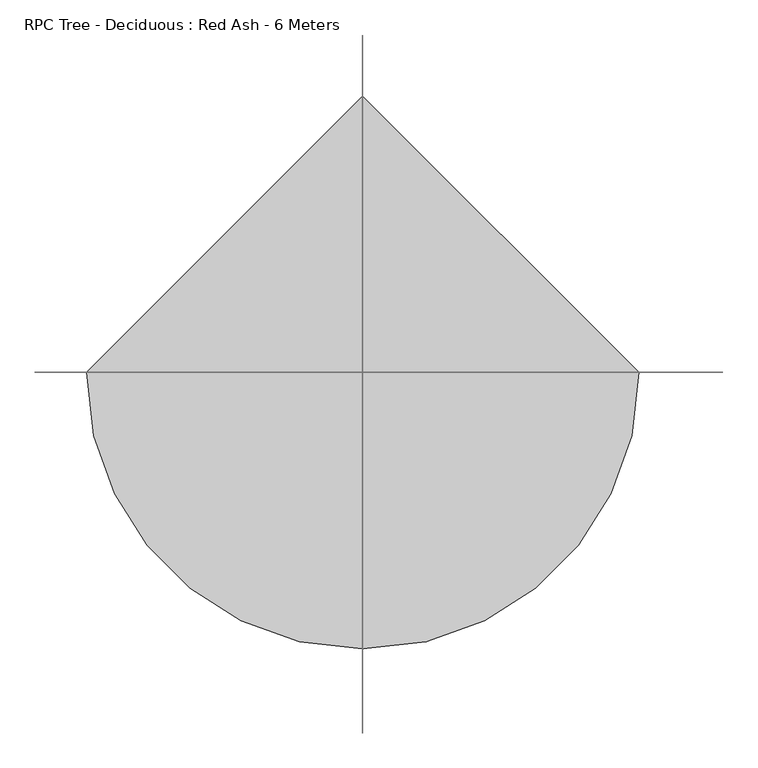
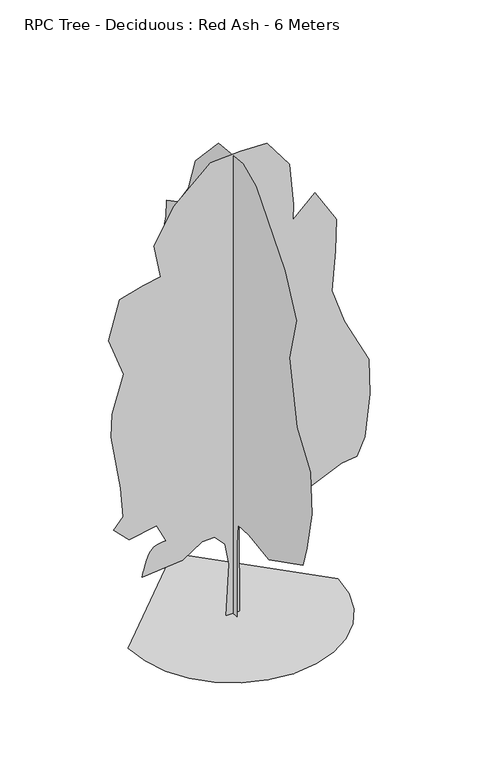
"""IFC4 building model written with IfcOpenShell, lengths in millimetres: geographic element geometry, RPC Tree - Deciduous : Red Ash - 6 Meters."""

from ifc_helpers import new_model, si_unit, origin, place, context, project, spatial, triangles, source, transform, mapped, element, save


def rpc_tree_deciduous_red_ash_6_meters_898a03db(model_context):
    return source(origin(), model_context, "Body", "Tessellation", [
        triangles([(-1295.2382366, 0.0, 4.87e-05), (-1260.9961407, -296.7829566, 4.87e-05), (-1163.4759304, -569.3306193, 4.87e-05), (-1010.4853415, -809.8341442, 4.87e-05), (-809.8342169, -1010.4855595, 4.87e-05), (-569.330474, -1163.4756397, 4.87e-05), (-296.7828295, -1260.9961407, 4.87e-05), (5.66e-05, -1295.2382366, 4.87e-05), (296.7829748, -1260.996286, 4.87e-05), (569.3306557, -1163.4758577, 4.87e-05), (809.8342169, -1010.4853415, 4.87e-05), (1010.4857048, -809.8342169, 4.87e-05), (1163.4757124, -569.3304377, 4.87e-05), (1260.9961407, -296.7827568, 4.87e-05), (1295.2382366, 0.0001132, 4.87e-05), (-0.0001698, 1295.2382366, 4.87e-05), (-8.4e-06, -80.9813034, 0.0), (1.97e-05, -79.7218235, 940.59375), (2.54e-05, -102.2692572, 1210.8684591), (5e-07, -345.5318161, 1226.9020008), (-4.55e-05, -768.8120115, 1164.0211733), (-0.0001106, -1498.9707138, 1534.3913715), (-0.0001113, -1583.6267384, 1809.523851), (-0.0001072, -1689.4468781, 2317.4601437), (-8.81e-05, -1657.7011414, 2846.5608421), (-4.58e-05, -1370.3795803, 3260.6437065), (-4.3e-06, -1202.6760813, 4063.4920853), (-2.8e-06, -1350.8229252, 4634.920578), (3.78e-05, -1107.4370544, 5142.857016), (0.0001235, -493.6805858, 5873.0159363), (0.0001563, -215.1186645, 5998.5780396), (0.0002096, 310.5524468, 5947.0899033), (0.0002457, 807.9070089, 5417.9896408), (0.0002479, 956.0553062, 4973.5452576), (0.0002617, 1178.2766258, 4656.0846931), (0.0002833, 1421.66395, 4529.1008743), (0.0002781, 1432.2458622, 4317.4603043), (0.0002774, 1495.7380623, 4074.0742882), (0.0002579, 1389.9179226, 3788.3600418), (0.0002596, 1485.1560047, 3513.2277077), (0.0002582, 1580.3940868, 3132.2753792), (0.0002528, 1559.230117, 3026.4550941), (0.0002265, 1379.3360104, 2772.4868752), (0.0002149, 1367.96185, 2423.2804287), (0.0002073, 1358.1718952, 2201.0580917), (0.0002002, 1368.7539528, 1925.9261936), (0.0001899, 1379.3361557, 1544.9738651), (0.000171, 1231.1877857, 1428.5715225), (0.0001423, 956.0556696, 1428.5715225), (0.0001439, 1083.0397791, 1037.0371365), (0.000135, 1061.8071362, 814.869738), (0.0001194, 868.5283813, 966.8003626), (7.77e-05, 495.6399138, 871.4233355), (7.72e-05, 434.4187597, 1068.5519279), (4.95e-05, 170.0100625, 1066.1437901), (3.96e-05, 102.9930957, 967.1925625), (2.57e-05, 62.6372695, 644.3174303), (9.2e-06, 88.3196908, 1.01e-05), (-87.2998948, 3.8e-06, 3.51e-05), (-52.5287205, -7.59e-05, 656.3005651), (-101.8167685, -0.0001071, 935.3886171), (-228.9668199, -0.0001181, 1075.0532753), (-380.8161086, -0.0001109, 1069.83964), (-626.9825146, -8.11e-05, 910.053027), (-1124.3370403, -5.43e-05, 867.7250874), (-1117.4572277, -5.79e-05, 895.0902775), (-1110.11458, -6.16e-05, 923.3809925), (-1101.84648, -6.55e-05, 953.522612), (-1092.1899473, -6.99e-05, 986.4412422), (-1080.6825829, -7.47e-05, 1023.0611727), (-1066.8611881, -8.02e-05, 1064.309745), (-1050.263146, -8.65e-05, 1111.1111034), (-1029.3459635, -9.26e-05, 1154.519137), (-1003.4308302, -9.76e-05, 1186.2650917), (-973.3507622, -0.0001015, 1208.2926716), (-939.9386301, -0.0001047, 1222.5463074), (-904.0277407, -0.0001072, 1230.9684677), (-866.4506739, -0.0001094, 1235.503656), (-828.0406637, -0.0001114, 1238.0952129), (-944.442643, -0.0001341, 1470.8994621), (-1283.0671772, -0.0001117, 1407.4074074), (-1473.5430508, -0.0001261, 1597.8838623), (-1357.1409988, -0.0001476, 1735.4500294), (-1388.8870262, -0.0001916, 2116.4025032), (-1505.2890781, -0.000271, 2825.396727), (-1494.8667492, -0.0003065, 3119.027932), (-1354.2657383, -0.0003691, 3593.1699211), (-1537.0352509, -0.000421, 4095.237822), (-1399.4687931, -0.000485, 4582.0107262), (-1113.7549101, -0.0005076, 4666.6666054), (-896.3883814, -0.0005217, 4705.0099045), (-976.1888884, -0.0005691, 5132.2751038), (-732.8024363, -0.0006315, 5566.1381561), (-277.7758319, -0.0007006, 5978.8362213), (92.5942391, -0.0007193, 6000.0000458), (420.6367885, -0.0007324, 5989.4175522), (695.7690863, -0.0007003, 5619.0477173), (746.3559694, -0.0006378, 5076.7860489), (739.0920959, -0.0006138, 4877.9290009), (1013.2292147, -0.0006561, 5132.2751038), (1277.7795639, -0.0006159, 4698.4123421), (1267.1976517, -0.0005666, 4288.5902641), (1220.0452972, -0.0005039, 3780.0410728), (1373.017646, -0.0004574, 3333.333165), (1678.5543743, -0.000399, 2731.6518677), (1688.2956402, -0.0003453, 2277.8026806), (1626.985865, -0.000278, 1735.4497387), (1531.7477829, -0.0002473, 1513.2275471), (1341.2714733, -0.0002365, 1492.0635773), (970.9012751, -0.0002001, 1322.7512375), (642.8586531, -0.000158, 1089.9471336), (202.7374434, -0.0001614, 1279.1880535), (73.2684021, -0.0001391, 1139.8698858), (82.0119999, -3.6e-06, 2.77e-05)], [[15, 16, 1], [14, 15, 1], [14, 1, 2], [13, 14, 2], [13, 2, 3], [13, 3, 4], [12, 13, 4], [11, 12, 4], [11, 4, 5], [11, 5, 6], [11, 6, 7], [11, 7, 8], [11, 8, 9], [11, 9, 10], [50, 51, 52], [57, 58, 17], [57, 17, 18], [56, 57, 18], [56, 18, 19], [55, 56, 19], [49, 50, 52], [52, 53, 54], [49, 52, 54], [35, 36, 37], [46, 47, 48], [46, 48, 49], [21, 22, 23], [20, 21, 23], [20, 23, 24], [20, 24, 25], [20, 25, 26], [19, 20, 26], [19, 26, 27], [45, 46, 49], [31, 32, 33], [30, 31, 33], [29, 30, 33], [29, 33, 34], [28, 29, 34], [27, 28, 34], [19, 27, 34], [19, 34, 35], [19, 35, 37], [19, 37, 38], [19, 38, 39], [19, 39, 40], [19, 40, 41], [19, 41, 42], [19, 42, 43], [19, 43, 44], [19, 44, 45], [19, 45, 49], [19, 49, 54], [55, 19, 54], [64, 65, 66], [64, 66, 67], [64, 67, 68], [99, 100, 101], [64, 68, 69], [64, 69, 70], [64, 70, 71], [114, 59, 60], [113, 114, 60], [113, 60, 61], [113, 61, 62], [64, 71, 72], [64, 72, 73], [64, 73, 74], [64, 74, 75], [64, 75, 76], [64, 76, 77], [64, 77, 78], [64, 78, 79], [63, 64, 79], [81, 82, 83], [80, 81, 83], [99, 101, 102], [107, 108, 109], [110, 111, 112], [88, 89, 90], [87, 88, 90], [87, 90, 91], [80, 83, 84], [95, 96, 97], [95, 97, 98], [94, 95, 98], [93, 94, 98], [92, 93, 98], [91, 92, 98], [91, 98, 99], [87, 91, 99], [87, 99, 102], [87, 102, 103], [87, 103, 104], [86, 87, 104], [85, 86, 104], [84, 85, 104], [80, 84, 104], [80, 104, 105], [80, 105, 106], [80, 106, 107], [80, 107, 109], [80, 109, 110], [80, 110, 112], [79, 80, 112], [63, 79, 112], [62, 63, 112], [113, 62, 112]], closed=False),
    ])


if __name__ == "__main__":
    model = new_model("IFC4")
    model_context = context("Model", 3, world=origin())
    ifc_project = project(units=[si_unit("LENGTHUNIT", "METRE", prefix="MILLI")], contexts=[model_context])
    site = spatial("IfcSite", under=ifc_project)
    building = spatial("IfcBuilding", under=site)
    placement = place(None, origin())
    rpc_tree_deciduous_red_ash_6_meters_shape = rpc_tree_deciduous_red_ash_6_meters_898a03db(model_context)
    element("IfcGeographicElement", 1, ObjectType="RPC Tree - Deciduous : Red Ash - 6 Meters", at=placement, inside=building, context=model_context, shape_type="MappedRepresentation", body=[
        mapped(rpc_tree_deciduous_red_ash_6_meters_shape, transform((0.0, 0.0, 0.0), x_axis=(1.0, 0.0, 0.0), y_axis=(0.0, 1.0, 0.0), z_axis=(0.0, 0.0, 1.0))),
    ])
    save(model, "model.ifc")
